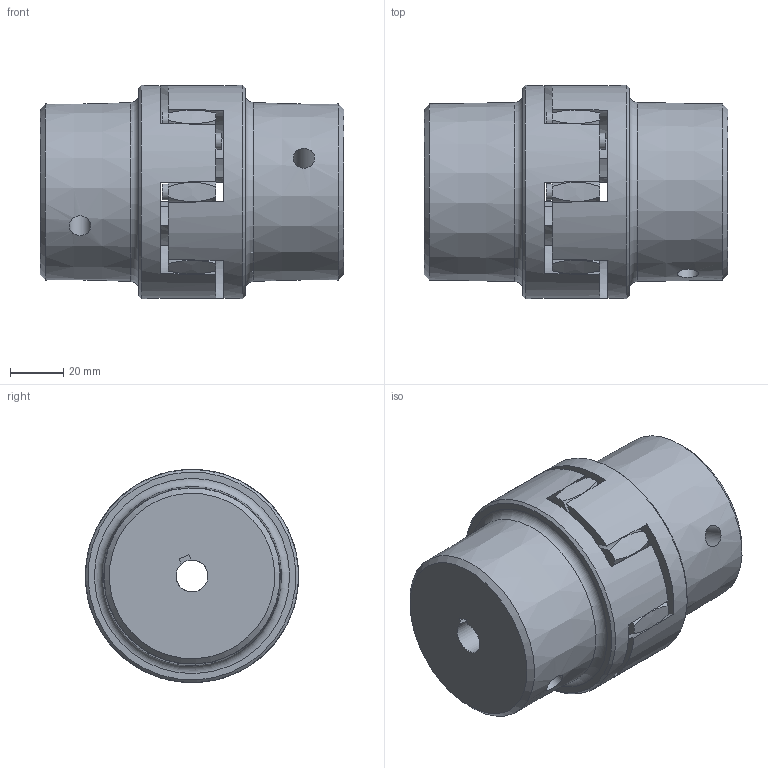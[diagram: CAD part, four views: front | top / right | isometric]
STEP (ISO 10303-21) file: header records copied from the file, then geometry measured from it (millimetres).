
FILE_DESCRIPTION(/* description */ (''),/* implementation_level */ '2;1');
FILE_NAME(/* name */ 'RP38-12-PF-12-PF',/* time_stamp */ '2024-01-05T15:28:44+01:00',/* author */ ('M. Horlacher'),/* organization */ (''),/* preprocessor_version */ 'ST-DEVELOPER v20',/* originating_system */ 'Autodesk Inventor 2024',/* authorisation */ '');
FILE_SCHEMA (('AUTOMOTIVE_DESIGN { 1 0 10303 214 3 1 1 }'));
Length unit declared in the file: millimetre
Products named in the file (4): RP STEP; RP38-Nabe_1; RP38-Nabe_1_1; RP38-Stern-92Shore
Assembly tree (3 placements, depth 2):
  RP STEP
    RP38-Nabe_1
    RP38-Nabe_1_1
    RP38-Stern-92Shore
Bounding box: 114 x 79.99 x 79.99 mm (x, y, z)
Volume: 395034.7 mm3; surface area: 67113 mm2
Topology: 3 solids, 3 shells, 111 faces, 281 edges, 188 vertices
Faces by surface type: bspline 32, plane 30, cone 30, cylinder 17, torus 2
Full cylindrical faces by diameter (mm): 6 x8, 8 x2, 38 x1, 80 x2
Entity records: 4774 total; most frequent: CARTESIAN_POINT 2041, ORIENTED_EDGE 562, DIRECTION 519, EDGE_CURVE 281, AXIS2_PLACEMENT_3D 240, VERTEX_POINT 188, CIRCLE 138, EDGE_LOOP 129
